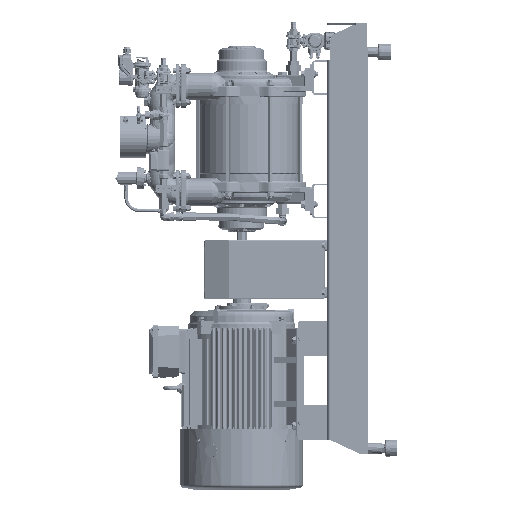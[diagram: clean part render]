
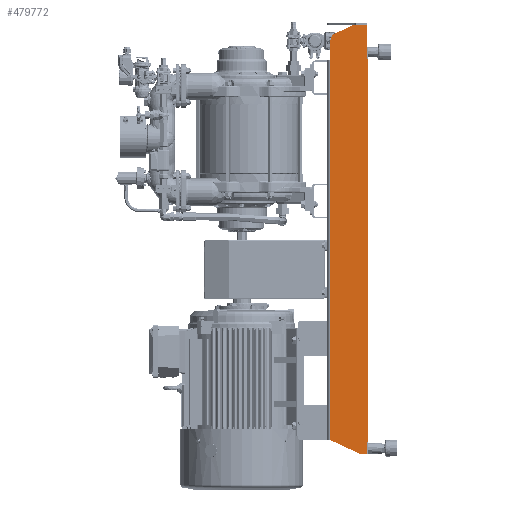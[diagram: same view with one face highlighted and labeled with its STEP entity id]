
A CAD part, left-side view. The second image highlights one B-rep face of the part: STEP entity #479772.
In plain terms, the highlighted planar face has unit normal (-1, 0, 0).
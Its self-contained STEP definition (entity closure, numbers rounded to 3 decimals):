
#30834=PLANE('',#511129);
#54382=FACE_OUTER_BOUND('',#82082,.T.);
#82082=EDGE_LOOP('',(#354934,#354935,#354936,#354937,#354938,#354939,#354940,
#354941,#354942,#354943,#354944,#354945));
#114642=LINE('',#879250,#151187);
#115258=LINE('',#881271,#151803);
#115259=LINE('',#881273,#151804);
#115260=LINE('',#881274,#151805);
#115261=LINE('',#881276,#151806);
#115262=LINE('',#881280,#151807);
#115263=LINE('',#881281,#151808);
#115264=LINE('',#881283,#151809);
#115265=LINE('',#881285,#151810);
#115266=LINE('',#881287,#151811);
#115267=LINE('',#881288,#151812);
#151187=VECTOR('',#577994,10.);
#151803=VECTOR('',#579754,10.);
#151804=VECTOR('',#579755,10.);
#151805=VECTOR('',#579756,10.);
#151806=VECTOR('',#579757,10.);
#151807=VECTOR('',#579760,10.);
#151808=VECTOR('',#579761,10.);
#151809=VECTOR('',#579762,10.);
#151810=VECTOR('',#579763,10.);
#151811=VECTOR('',#579764,10.);
#151812=VECTOR('',#579765,10.);
#180170=CIRCLE('',#511130,25.);
#206656=VERTEX_POINT('',#879247);
#206657=VERTEX_POINT('',#879249);
#207216=VERTEX_POINT('',#881259);
#207219=VERTEX_POINT('',#881269);
#207220=VERTEX_POINT('',#881270);
#207221=VERTEX_POINT('',#881272);
#207222=VERTEX_POINT('',#881275);
#207223=VERTEX_POINT('',#881277);
#207224=VERTEX_POINT('',#881279);
#207225=VERTEX_POINT('',#881282);
#207226=VERTEX_POINT('',#881284);
#207227=VERTEX_POINT('',#881286);
#259513=EDGE_CURVE('',#206656,#206657,#114642,.T.);
#260448=EDGE_CURVE('',#207219,#207220,#115258,.T.);
#260449=EDGE_CURVE('',#207219,#207221,#115259,.T.);
#260450=EDGE_CURVE('',#206657,#207221,#115260,.T.);
#260451=EDGE_CURVE('',#207222,#206656,#115261,.T.);
#260452=EDGE_CURVE('',#207223,#207222,#180170,.T.);
#260453=EDGE_CURVE('',#207224,#207223,#115262,.T.);
#260454=EDGE_CURVE('',#207224,#207216,#115263,.T.);
#260455=EDGE_CURVE('',#207225,#207216,#115264,.T.);
#260456=EDGE_CURVE('',#207226,#207225,#115265,.T.);
#260457=EDGE_CURVE('',#207226,#207227,#115266,.T.);
#260458=EDGE_CURVE('',#207227,#207220,#115267,.T.);
#354934=ORIENTED_EDGE('',*,*,#260448,.F.);
#354935=ORIENTED_EDGE('',*,*,#260449,.T.);
#354936=ORIENTED_EDGE('',*,*,#260450,.F.);
#354937=ORIENTED_EDGE('',*,*,#259513,.F.);
#354938=ORIENTED_EDGE('',*,*,#260451,.F.);
#354939=ORIENTED_EDGE('',*,*,#260452,.F.);
#354940=ORIENTED_EDGE('',*,*,#260453,.F.);
#354941=ORIENTED_EDGE('',*,*,#260454,.T.);
#354942=ORIENTED_EDGE('',*,*,#260455,.F.);
#354943=ORIENTED_EDGE('',*,*,#260456,.F.);
#354944=ORIENTED_EDGE('',*,*,#260457,.T.);
#354945=ORIENTED_EDGE('',*,*,#260458,.T.);
#479772=ADVANCED_FACE('',(#54382),#30834,.T.);
#511129=AXIS2_PLACEMENT_3D('',#881268,#579752,#579753);
#511130=AXIS2_PLACEMENT_3D('',#881278,#579758,#579759);
#577994=DIRECTION('',(0.,-1.,0.));
#579752=DIRECTION('center_axis',(-1.,0.,0.));
#579753=DIRECTION('ref_axis',(0.,0.,
-1.));
#579754=DIRECTION('',(0.,0.,-1.));
#579755=DIRECTION('',(0.,1.,0.));
#579756=DIRECTION('',(0.,0.,-1.));
#579757=DIRECTION('',(0.,-0.906,0.423));
#579758=DIRECTION('center_axis',(1.,0.,0.));
#579759=DIRECTION('ref_axis',(0.,0.843,0.537));
#579760=DIRECTION('',(0.,0.,1.));
#579761=DIRECTION('',(0.,0.,-1.));
#579762=DIRECTION('',(0.,0.906,0.423));
#579763=DIRECTION('',(0.,1.,0.));
#579764=DIRECTION('',(0.,0.,1.));
#579765=DIRECTION('',(0.,-1.,0.));
#879247=CARTESIAN_POINT('',(-254.,-3.804,736.766));
#879249=CARTESIAN_POINT('',(-254.,-49.,736.766));
#879250=CARTESIAN_POINT('',(-254.,-3.804,736.766));
#881259=CARTESIAN_POINT('',(-254.,83.,-771.734));
#881268=CARTESIAN_POINT('Origin',(-254.,348.586,-186.984));
#881269=CARTESIAN_POINT('',(-254.,-55.,612.766));
#881270=CARTESIAN_POINT('',(-254.,-55.,-777.734));
#881271=CARTESIAN_POINT('',(-254.,-55.,-980.734));
#881272=CARTESIAN_POINT('',(-254.,-49.,612.766));
#881273=CARTESIAN_POINT('',(-254.,146.793,612.766));
#881274=CARTESIAN_POINT('',(-254.,-49.,736.766));
#881275=CARTESIAN_POINT('',(-254.,68.565,703.02));
#881276=CARTESIAN_POINT('',(-254.,83.,696.289));
#881277=CARTESIAN_POINT('',(-254.,83.,680.362));
#881278=CARTESIAN_POINT('Origin',(-254.,58.,680.362));
#881279=CARTESIAN_POINT('',(-254.,83.,606.766));
#881280=CARTESIAN_POINT('',(-254.,83.,606.766));
#881281=CARTESIAN_POINT('',(-254.,83.,-186.984));
#881282=CARTESIAN_POINT('',(-254.,-24.225,-821.734));
#881283=CARTESIAN_POINT('',(-254.,-24.225,-821.734));
#881284=CARTESIAN_POINT('',(-254.,-49.,-821.734));
#881285=CARTESIAN_POINT('',(-254.,-55.,-821.734));
#881286=CARTESIAN_POINT('',(-254.,-49.,-777.734));
#881287=CARTESIAN_POINT('',(-254.,-49.,-528.859));
#881288=CARTESIAN_POINT('',(-254.,146.793,-777.734));
